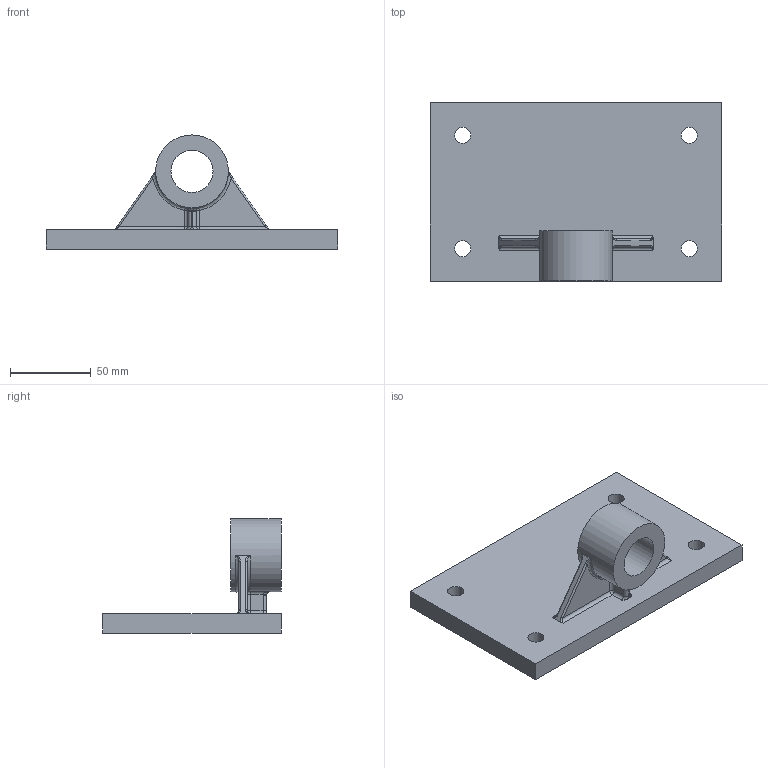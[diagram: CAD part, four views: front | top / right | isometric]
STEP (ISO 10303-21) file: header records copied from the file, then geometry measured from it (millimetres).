
FILE_DESCRIPTION((''),'2;1');
FILE_NAME('D:\PAWEŁ\ZLECENIA\DualSystem\001 Modele\DKAB40_\DK_40_STEP\AT_40.stp','2011-11-27T15:09:10',('Pawe'),(''),'Autodesk Inventor 2009','Autodesk Inventor 2009','');
FILE_SCHEMA(('AUTOMOTIVE_DESIGN { 1 0 10303 214 1 1 1 1 }'));
Length unit declared in the file: millimetre
Products named in the file (1): AT_40
Bounding box: 180 x 110 x 70.5 mm (x, y, z)
Volume: 276425.5 mm3; surface area: 59336.2 mm2
Topology: 1 solids, 1 shells, 59 faces, 142 edges, 82 vertices
Faces by surface type: cylinder 21, bspline 20, plane 16, torus 2
Full cylindrical faces by diameter (mm): 10 x4, 26 x1, 45 x1
Entity records: 3063 total; most frequent: CARTESIAN_POINT 1775, ORIENTED_EDGE 262, DIRECTION 243, EDGE_CURVE 131, AXIS2_PLACEMENT_3D 98, VERTEX_POINT 82, EDGE_LOOP 77, FACE_OUTER_BOUND 59
